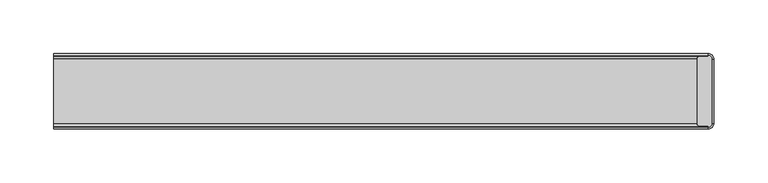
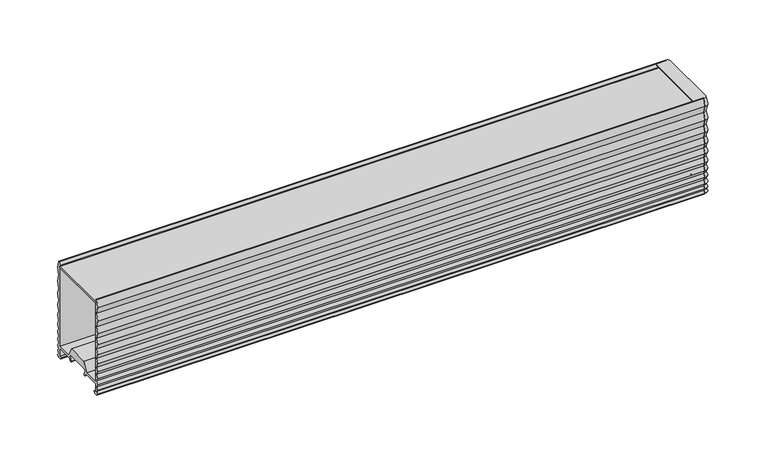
"""IFC4 building model written with IfcOpenShell, lengths in millimetres: light fixture geometry, Lighting-Ceiling-Betacalco-Bellows-Straight : BLLC-DT1-SL04-LPF020-CR80-CTA40-DD1-FA01."""

from ifc_helpers import new_model, si_unit, point, frame, frame_2d, origin, place, context, project, spatial, polyline, circle_curve, trimmed, segment, composite_curve, outline, extrude, source, transform, mapped, element, save
from ifc_brep_helpers import plane_surface, revolved_surface, advanced_brep


def light_fixture_e4687d5b(model_context):
    return source(origin(), model_context, "Body", "SolidModel", [
        advanced_brep(
        [(304.8, 35.1474913, 2.032), (304.8, 33.3694913, 0.0), (304.8, -33.3694913, 0.0), (304.8, -35.1474913, 2.032), (304.8, -33.3694913, 4.064), (304.8, -35.1474913, 6.604), (304.8, -33.3694913, 9.144), (304.8, -35.1474913, 12.192), (304.8, -33.3694913, 15.24), (304.8, -35.1474913, 18.796), (304.8, -33.3694913, 22.352), (304.8, -35.1474913, 26.162), (304.8, -33.3694913, 29.972), (304.8, -35.11885, 34.4703509), (304.8, -33.3966915, 39.0460566), (304.8, -35.1239968, 44.1288728), (304.8, -33.3919128, 49.2119386), (304.8, -35.1278878, 54.802389), (304.8, -33.3882749, 60.3929656), (304.8, -35.1308966, 66.491104), (304.8, -33.3848944, 72.5911894), (304.8, -35.1351705, 79.7067168), (304.8, -33.3815995, 86.8195673), (304.8, -35.1359826, 94.186321), (304.8, -33.3694913, 101.6), (304.8, -32.6229178, 101.6), (304.8, -32.6229178, 100.2332722), (304.8, 32.6229178, 100.2332722), (304.8, 32.6229178, 101.6), (304.8, 33.3694913, 101.6), (304.8, 35.1359826, 94.186321), (304.8, 33.3815995, 86.8195673), (304.8, 35.1351705, 79.7067168), (304.8, 33.3848944, 72.5911894), (304.8, 35.1308966, 66.491104), (304.8, 33.3882749, 60.3929656), (304.8, 35.1278878, 54.802389), (304.8, 33.3919128, 49.2119386), (304.8, 35.1239968, 44.1288728), (304.8, 33.3966915, 39.0460566), (304.8, 35.11885, 34.4703509), (304.8, 33.3694913, 29.972), (304.8, 35.1474913, 26.162), (304.8, 33.3694913, 22.352), (304.8, 35.1474913, 18.796), (304.8, 33.3694913, 15.24), (304.8, 35.1474913, 12.192), (304.8, 33.3694913, 9.144), (304.8, 35.1474913, 6.604), (304.8, 33.3694913, 4.064), (309.991, 29.9564913, 2.032), (308.213, 29.9564913, 0.0), (308.213, -29.9564913, 0.0), (308.213, 29.9564913, 101.6), (295.9807007, 32.5154703, 101.6), (294.8222216, 31.4000598, 101.6), (294.8222216, -31.4000598, 101.6), (295.9807007, -32.5154703, 101.6), (308.213, -29.9564913, 101.6), (309.9794913, 29.9564913, 94.186321), (308.2251082, 29.9564913, 86.8195673), (309.9786792, 29.9564913, 79.7067168), (308.2284031, 29.9564913, 72.5911894), (309.9744054, 29.9564913, 66.491104), (308.2317837, 29.9564913, 60.3929656), (309.9713965, 29.9564913, 54.802389), (308.2354215, 29.9564913, 49.2119386), (309.9675055, 29.9564913, 44.1288728), (308.2402002, 29.9564913, 39.0460566), (309.9623587, 29.9564913, 34.4703509), (308.213, 29.9564913, 29.972), (309.991, 29.9564913, 26.162), (308.213, 29.9564913, 22.352), (309.991, 29.9564913, 18.796), (308.213, 29.9564913, 15.24), (309.991, 29.9564913, 12.192), (308.213, 29.9564913, 9.144), (309.991, 29.9564913, 6.604), (308.213, 29.9564913, 4.064), (309.991, -29.9564913, 2.032), (309.9794913, -29.9564913, 94.186321), (308.2251082, -29.9564913, 86.8195673), (309.9786792, -29.9564913, 79.7067168), (308.2284031, -29.9564913, 72.5911894), (309.9744054, -29.9564913, 66.491104), (308.2317837, -29.9564913, 60.3929656), (309.9713965, -29.9564913, 54.802389), (308.2354215, -29.9564913, 49.2119386), (309.9675055, -29.9564913, 44.1288728), (308.2402002, -29.9564913, 39.0460566), (309.9623587, -29.9564913, 34.4703509), (308.213, -29.9564913, 29.972), (309.991, -29.9564913, 26.162), (308.213, -29.9564913, 22.352), (309.991, -29.9564913, 18.796), (308.213, -29.9564913, 15.24), (309.991, -29.9564913, 12.192), (308.213, -29.9564913, 9.144), (309.991, -29.9564913, 6.604), (308.213, -29.9564913, 4.064), (294.8222216, -31.4000598, 100.2332722), (294.8222216, 31.4000598, 100.2332722), (295.9807007, 32.5154703, 100.2332722), (295.9807007, -32.5154703, 100.2332722)],
        [
            (0, 1),
            (1, 2),
            (2, 3),
            (3, 4),
            (4, 5),
            (5, 6),
            (6, 7),
            (7, 8),
            (8, 9),
            (9, 10),
            (10, 11),
            (11, 12),
            (12, 13),
            (13, 14),
            (14, 15),
            (15, 16),
            (16, 17),
            (17, 18),
            (18, 19),
            (19, 20),
            (20, 21),
            (21, 22),
            (22, 23),
            (23, 24),
            (24, 25),
            (25, 26),
            (26, 27),
            (27, 28),
            (28, 29),
            (29, 30),
            (30, 31),
            (31, 32),
            (32, 33),
            (33, 34),
            (34, 35),
            (35, 36),
            (36, 37),
            (37, 38),
            (38, 39),
            (39, 40),
            (40, 41),
            (41, 42),
            (42, 43),
            (43, 44),
            (44, 45),
            (45, 46),
            (46, 47),
            (47, 48),
            (48, 49),
            (49, 0),
            (0, 50, circle_curve(frame((304.8, 29.9564913, 2.032), z_axis=(0.0, 0.0, -1.0), x_axis=(0.0, 1.0, 0.0)), 5.191)),
            (50, 51),
            (51, 1, circle_curve(frame((304.8, 29.9564913, 0.0), z_axis=(0.0, 0.0, 1.0), x_axis=(0.0, 1.0, 0.0)), 3.413)),
            (51, 52),
            (52, 2, circle_curve(frame((304.8, -29.9564913, 0.0), z_axis=(0.0, 0.0, -1.0), x_axis=(1.0, 0.0, 0.0)), 3.413)),
            (53, 29, circle_curve(frame((304.8, 29.9564913, 101.6), z_axis=(0.0, 0.0, 1.0), x_axis=(0.0, 1.0, 0.0)), 3.413)),
            (28, 54),
            (54, 55),
            (55, 56),
            (56, 57),
            (57, 25),
            (24, 58, circle_curve(frame((304.8, -29.9564913, 101.6), z_axis=(0.0, 0.0, 1.0), x_axis=(1.0, 0.0, 0.0)), 3.413)),
            (58, 53),
            (53, 59),
            (59, 30, circle_curve(frame((304.8, 29.9564913, 94.186321), z_axis=(0.0, 0.0, 1.0), x_axis=(0.0, 1.0, 0.0)), 5.1794913)),
            (59, 60),
            (60, 31, circle_curve(frame((304.8, 29.9564913, 86.8195673), z_axis=(0.0, 0.0, 1.0), x_axis=(0.0, 1.0, 0.0)), 3.4251082)),
            (60, 61),
            (61, 32, circle_curve(frame((304.8, 29.9564913, 79.7067168), z_axis=(0.0, 0.0, 1.0), x_axis=(0.0, 1.0, 0.0)), 5.1786792)),
            (61, 62),
            (62, 33, circle_curve(frame((304.8, 29.9564913, 72.5911894), z_axis=(0.0, 0.0, 1.0), x_axis=(0.0, 1.0, 0.0)), 3.4284031)),
            (62, 63),
            (63, 34, circle_curve(frame((304.8, 29.9564913, 66.491104), z_axis=(0.0, 0.0, 1.0), x_axis=(0.0, 1.0, 0.0)), 5.1744054)),
            (63, 64),
            (64, 35, circle_curve(frame((304.8, 29.9564913, 60.3929656), z_axis=(0.0, 0.0, 1.0), x_axis=(0.0, 1.0, 0.0)), 3.4317837)),
            (64, 65),
            (65, 36, circle_curve(frame((304.8, 29.9564913, 54.802389), z_axis=(0.0, 0.0, 1.0), x_axis=(0.0, 1.0, 0.0)), 5.1713965)),
            (65, 66),
            (66, 37, circle_curve(frame((304.8, 29.9564913, 49.2119386), z_axis=(0.0, 0.0, 1.0), x_axis=(0.0, 1.0, 0.0)), 3.4354215)),
            (66, 67),
            (67, 38, circle_curve(frame((304.8, 29.9564913, 44.1288728), z_axis=(0.0, 0.0, 1.0), x_axis=(0.0, 1.0, 0.0)), 5.1675055)),
            (67, 68),
            (68, 39, circle_curve(frame((304.8, 29.9564913, 39.0460566), z_axis=(0.0, 0.0, 1.0), x_axis=(0.0, 1.0, 0.0)), 3.4402002)),
            (68, 69),
            (69, 40, circle_curve(frame((304.8, 29.9564913, 34.4703509), z_axis=(0.0, 0.0, 1.0), x_axis=(0.0, 1.0, 0.0)), 5.1623587)),
            (69, 70),
            (70, 41, circle_curve(frame((304.8, 29.9564913, 29.972), z_axis=(0.0, 0.0, 1.0), x_axis=(0.0, 1.0, 0.0)), 3.413)),
            (70, 71),
            (71, 42, circle_curve(frame((304.8, 29.9564913, 26.162), z_axis=(0.0, 0.0, 1.0), x_axis=(0.0, 1.0, 0.0)), 5.191)),
            (71, 72),
            (72, 43, circle_curve(frame((304.8, 29.9564913, 22.352), z_axis=(0.0, 0.0, 1.0), x_axis=(0.0, 1.0, 0.0)), 3.413)),
            (72, 73),
            (73, 44, circle_curve(frame((304.8, 29.9564913, 18.796), z_axis=(0.0, 0.0, 1.0), x_axis=(0.0, 1.0, 0.0)), 5.191)),
            (73, 74),
            (74, 45, circle_curve(frame((304.8, 29.9564913, 15.24), z_axis=(0.0, 0.0, 1.0), x_axis=(0.0, 1.0, 0.0)), 3.413)),
            (74, 75),
            (75, 46, circle_curve(frame((304.8, 29.9564913, 12.192), z_axis=(0.0, 0.0, 1.0), x_axis=(0.0, 1.0, 0.0)), 5.191)),
            (75, 76),
            (76, 47, circle_curve(frame((304.8, 29.9564913, 9.144), z_axis=(0.0, 0.0, 1.0), x_axis=(0.0, 1.0, 0.0)), 3.413)),
            (76, 77),
            (77, 48, circle_curve(frame((304.8, 29.9564913, 6.604), z_axis=(0.0, 0.0, 1.0), x_axis=(0.0, 1.0, 0.0)), 5.191)),
            (77, 78),
            (78, 49, circle_curve(frame((304.8, 29.9564913, 4.064), z_axis=(0.0, 0.0, 1.0), x_axis=(0.0, 1.0, 0.0)), 3.413)),
            (78, 50),
            (50, 79),
            (79, 52),
            (58, 80),
            (80, 59),
            (80, 81),
            (81, 60),
            (81, 82),
            (82, 61),
            (82, 83),
            (83, 62),
            (83, 84),
            (84, 63),
            (84, 85),
            (85, 64),
            (85, 86),
            (86, 65),
            (86, 87),
            (87, 66),
            (87, 88),
            (88, 67),
            (88, 89),
            (89, 68),
            (89, 90),
            (90, 69),
            (90, 91),
            (91, 70),
            (91, 92),
            (92, 71),
            (92, 93),
            (93, 72),
            (93, 94),
            (94, 73),
            (94, 95),
            (95, 74),
            (95, 96),
            (96, 75),
            (96, 97),
            (97, 76),
            (97, 98),
            (98, 77),
            (98, 99),
            (99, 78),
            (99, 79),
            (100, 101),
            (101, 102),
            (102, 27),
            (26, 103),
            (103, 100),
            (56, 100),
            (103, 57),
            (102, 54),
            (101, 55),
            (79, 3, circle_curve(frame((304.8, -29.9564913, 2.032), z_axis=(0.0, 0.0, -1.0), x_axis=(1.0, 0.0, 0.0)), 5.191)),
            (23, 80, circle_curve(frame((304.8, -29.9564913, 94.186321), z_axis=(0.0, 0.0, 1.0), x_axis=(1.0, 0.0, 0.0)), 5.1794913)),
            (22, 81, circle_curve(frame((304.8, -29.9564913, 86.8195673), z_axis=(0.0, 0.0, 1.0), x_axis=(1.0, 0.0, 0.0)), 3.4251082)),
            (21, 82, circle_curve(frame((304.8, -29.9564913, 79.7067168), z_axis=(0.0, 0.0, 1.0), x_axis=(1.0, 0.0, 0.0)), 5.1786792)),
            (20, 83, circle_curve(frame((304.8, -29.9564913, 72.5911894), z_axis=(0.0, 0.0, 1.0), x_axis=(1.0, 0.0, 0.0)), 3.4284031)),
            (19, 84, circle_curve(frame((304.8, -29.9564913, 66.491104), z_axis=(0.0, 0.0, 1.0), x_axis=(1.0, 0.0, 0.0)), 5.1744054)),
            (18, 85, circle_curve(frame((304.8, -29.9564913, 60.3929656), z_axis=(0.0, 0.0, 1.0), x_axis=(1.0, 0.0, 0.0)), 3.4317837)),
            (17, 86, circle_curve(frame((304.8, -29.9564913, 54.802389), z_axis=(0.0, 0.0, 1.0), x_axis=(1.0, 0.0, 0.0)), 5.1713965)),
            (16, 87, circle_curve(frame((304.8, -29.9564913, 49.2119386), z_axis=(0.0, 0.0, 1.0), x_axis=(1.0, 0.0, 0.0)), 3.4354215)),
            (15, 88, circle_curve(frame((304.8, -29.9564913, 44.1288728), z_axis=(0.0, 0.0, 1.0), x_axis=(1.0, 0.0, 0.0)), 5.1675055)),
            (14, 89, circle_curve(frame((304.8, -29.9564913, 39.0460566), z_axis=(0.0, 0.0, 1.0), x_axis=(1.0, 0.0, 0.0)), 3.4402002)),
            (13, 90, circle_curve(frame((304.8, -29.9564913, 34.4703509), z_axis=(0.0, 0.0, 1.0), x_axis=(1.0, 0.0, 0.0)), 5.1623587)),
            (12, 91, circle_curve(frame((304.8, -29.9564913, 29.972), z_axis=(0.0, 0.0, 1.0), x_axis=(1.0, 0.0, 0.0)), 3.413)),
            (11, 92, circle_curve(frame((304.8, -29.9564913, 26.162), z_axis=(0.0, 0.0, 1.0), x_axis=(1.0, 0.0, 0.0)), 5.191)),
            (10, 93, circle_curve(frame((304.8, -29.9564913, 22.352), z_axis=(0.0, 0.0, 1.0), x_axis=(1.0, 0.0, 0.0)), 3.413)),
            (9, 94, circle_curve(frame((304.8, -29.9564913, 18.796), z_axis=(0.0, 0.0, 1.0), x_axis=(1.0, 0.0, 0.0)), 5.191)),
            (8, 95, circle_curve(frame((304.8, -29.9564913, 15.24), z_axis=(0.0, 0.0, 1.0), x_axis=(1.0, 0.0, 0.0)), 3.413)),
            (7, 96, circle_curve(frame((304.8, -29.9564913, 12.192), z_axis=(0.0, 0.0, 1.0), x_axis=(1.0, 0.0, 0.0)), 5.191)),
            (6, 97, circle_curve(frame((304.8, -29.9564913, 9.144), z_axis=(0.0, 0.0, 1.0), x_axis=(1.0, 0.0, 0.0)), 3.413)),
            (5, 98, circle_curve(frame((304.8, -29.9564913, 6.604), z_axis=(0.0, 0.0, 1.0), x_axis=(1.0, 0.0, 0.0)), 5.191)),
            (4, 99, circle_curve(frame((304.8, -29.9564913, 4.064), z_axis=(0.0, 0.0, 1.0), x_axis=(1.0, 0.0, 0.0)), 3.413)),
        ],
        [
            plane_surface(frame((304.8, 35.3935941, 0.0), z_axis=(-1.0, 0.0, 0.0), x_axis=(0.0, 0.0, 1.0))),
            revolved_surface(polyline([(304.8, 35.1474913, 2.032), (304.8, 33.3694913, 0.0)]), (304.8, 29.9564913, 0.0), (0.0, 0.0, -1.0)),
            plane_surface(frame((304.8, 29.9564913, 0.0), z_axis=(0.0, 0.0, -1.0), x_axis=(0.0, 1.0, 0.0))),
            plane_surface(frame((304.8, 29.9564913, 101.6), z_axis=(0.0, 0.0, 1.0), x_axis=(0.0, 1.0, 0.0))),
            revolved_surface(polyline([(304.8, 33.3694913, 101.6), (304.8, 35.1359826, 94.186321)]), (304.8, 29.9564913, 0.0), (0.0, 0.0, -1.0)),
            revolved_surface(polyline([(304.8, 35.1359826, 94.186321), (304.8, 33.3815995, 86.8195673)]), (304.8, 29.9564913, 0.0), (0.0, 0.0, -1.0)),
            revolved_surface(polyline([(304.8, 33.3815995, 86.8195673), (304.8, 35.1351705, 79.7067168)]), (304.8, 29.9564913, 0.0), (0.0, 0.0, -1.0)),
            revolved_surface(polyline([(304.8, 35.1351705, 79.7067168), (304.8, 33.3848944, 72.5911894)]), (304.8, 29.9564913, 0.0), (0.0, 0.0, -1.0)),
            revolved_surface(polyline([(304.8, 33.3848944, 72.5911894), (304.8, 35.1308966, 66.491104)]), (304.8, 29.9564913, 0.0), (0.0, 0.0, -1.0)),
            revolved_surface(polyline([(304.8, 35.1308966, 66.491104), (304.8, 33.3882749, 60.3929656)]), (304.8, 29.9564913, 0.0), (0.0, 0.0, -1.0)),
            revolved_surface(polyline([(304.8, 33.3882749, 60.3929656), (304.8, 35.1278878, 54.802389)]), (304.8, 29.9564913, 0.0), (0.0, 0.0, -1.0)),
            revolved_surface(polyline([(304.8, 35.1278878, 54.802389), (304.8, 33.3919128, 49.2119386)]), (304.8, 29.9564913, 0.0), (0.0, 0.0, -1.0)),
            revolved_surface(polyline([(304.8, 33.3919128, 49.2119386), (304.8, 35.1239968, 44.1288728)]), (304.8, 29.9564913, 0.0), (0.0, 0.0, -1.0)),
            revolved_surface(polyline([(304.8, 35.1239968, 44.1288728), (304.8, 33.3966915, 39.0460566)]), (304.8, 29.9564913, 0.0), (0.0, 0.0, -1.0)),
            revolved_surface(polyline([(304.8, 33.3966915, 39.0460566), (304.8, 35.11885, 34.4703509)]), (304.8, 29.9564913, 0.0), (0.0, 0.0, -1.0)),
            revolved_surface(polyline([(304.8, 35.11885, 34.4703509), (304.8, 33.3694913, 29.972)]), (304.8, 29.9564913, 0.0), (0.0, 0.0, -1.0)),
            revolved_surface(polyline([(304.8, 33.3694913, 29.972), (304.8, 35.1474913, 26.162)]), (304.8, 29.9564913, 0.0), (0.0, 0.0, -1.0)),
            revolved_surface(polyline([(304.8, 35.1474913, 26.162), (304.8, 33.3694913, 22.352)]), (304.8, 29.9564913, 0.0), (0.0, 0.0, -1.0)),
            revolved_surface(polyline([(304.8, 33.3694913, 22.352), (304.8, 35.1474913, 18.796)]), (304.8, 29.9564913, 0.0), (0.0, 0.0, -1.0)),
            revolved_surface(polyline([(304.8, 35.1474913, 18.796), (304.8, 33.3694913, 15.24)]), (304.8, 29.9564913, 0.0), (0.0, 0.0, -1.0)),
            revolved_surface(polyline([(304.8, 33.3694913, 15.24), (304.8, 35.1474913, 12.192)]), (304.8, 29.9564913, 0.0), (0.0, 0.0, -1.0)),
            revolved_surface(polyline([(304.8, 35.1474913, 12.192), (304.8, 33.3694913, 9.144)]), (304.8, 29.9564913, 0.0), (0.0, 0.0, -1.0)),
            revolved_surface(polyline([(304.8, 33.3694913, 9.144), (304.8, 35.1474913, 6.604)]), (304.8, 29.9564913, 0.0), (0.0, 0.0, -1.0)),
            revolved_surface(polyline([(304.8, 35.1474913, 6.604), (304.8, 33.3694913, 4.064)]), (304.8, 29.9564913, 0.0), (0.0, 0.0, -1.0)),
            revolved_surface(polyline([(304.8, 33.3694913, 4.064), (304.8, 35.1474913, 2.032)]), (304.8, 29.9564913, 0.0), (0.0, 0.0, -1.0)),
            plane_surface(frame((309.991, 29.9564913, 2.032), z_axis=(0.7525766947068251, 0.0, -0.6585046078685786), x_axis=(0.0, -1.0, 0.0))),
            plane_surface(frame((308.213, 29.9564913, 101.6), z_axis=(0.9727668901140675, 0.0, 0.23178562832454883), x_axis=(0.0, -1.0, 0.0))),
            plane_surface(frame((309.9794913, 29.9564913, 94.186321), z_axis=(0.9727944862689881, 0.0, -0.23166978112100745), x_axis=(0.0, -1.0, 0.0))),
            plane_surface(frame((308.2251082, 29.9564913, 86.8195673), z_axis=(0.9709287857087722, 0.0, 0.23936852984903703), x_axis=(0.0, -1.0, 0.0))),
            plane_surface(frame((309.9786792, 29.9564913, 79.7067168), z_axis=(0.9710540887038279, 0.0, -0.23885970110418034), x_axis=(0.0, -1.0, 0.0))),
            plane_surface(frame((308.2284031, 29.9564913, 72.5911894), z_axis=(0.9613939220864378, 0.0, 0.27517581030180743), x_axis=(0.0, -1.0, 0.0))),
            plane_surface(frame((309.9744054, 29.9564913, 66.491104), z_axis=(0.9615116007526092, 0.0, -0.2747643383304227), x_axis=(0.0, -1.0, 0.0))),
            plane_surface(frame((308.2317837, 29.9564913, 60.3929656), z_axis=(0.9548411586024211, 0.0, 0.29711674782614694), x_axis=(0.0, -1.0, 0.0))),
            plane_surface(frame((309.9713965, 29.9564913, 54.802389), z_axis=(0.9550153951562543, 0.0, -0.29655622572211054), x_axis=(0.0, -1.0, 0.0))),
            plane_surface(frame((308.2354215, 29.9564913, 49.2119386), z_axis=(0.9465545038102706, 0.0, 0.3225439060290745), x_axis=(0.0, -1.0, 0.0))),
            plane_surface(frame((309.9675055, 29.9564913, 44.1288728), z_axis=(0.9468211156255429, 0.0, -0.3217604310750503), x_axis=(0.0, -1.0, 0.0))),
            plane_surface(frame((308.2402002, 29.9564913, 39.0460566), z_axis=(0.9359069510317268, 0.0, 0.3522473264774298), x_axis=(0.0, -1.0, 0.0))),
            plane_surface(frame((309.9623587, 29.9564913, 34.4703509), z_axis=(0.9320046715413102, 0.0, -0.36244626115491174), x_axis=(0.0, -1.0, 0.0))),
            plane_surface(frame((308.213, 29.9564913, 29.972), z_axis=(0.9061831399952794, 0.0, 0.42288546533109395), x_axis=(0.0, -1.0, 0.0))),
            plane_surface(frame((309.991, 29.9564913, 26.162), z_axis=(0.9061831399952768, 0.0, -0.42288546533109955), x_axis=(0.0, -1.0, 0.0))),
            plane_surface(frame((308.213, 29.9564913, 22.352), z_axis=(0.8944271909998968, 0.0, 0.4472135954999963), x_axis=(0.0, -1.0, 0.0))),
            plane_surface(frame((309.991, 29.9564913, 18.796), z_axis=(0.8944271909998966, 0.0, -0.44721359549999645), x_axis=(0.0, -1.0, 0.0))),
            plane_surface(frame((308.213, 29.9564913, 15.24), z_axis=(0.8637789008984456, 0.0, 0.5038710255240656), x_axis=(0.0, -1.0, 0.0))),
            plane_surface(frame((309.991, 29.9564913, 12.192), z_axis=(0.8637789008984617, 0.0, -0.503871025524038), x_axis=(0.0, -1.0, 0.0))),
            plane_surface(frame((308.213, 29.9564913, 9.144), z_axis=(0.8192319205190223, 0.0, 0.5734623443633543), x_axis=(0.0, -1.0, 0.0))),
            plane_surface(frame((309.991, 29.9564913, 6.604), z_axis=(0.8192319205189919, 0.0, -0.5734623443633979), x_axis=(0.0, -1.0, 0.0))),
            plane_surface(frame((308.213, 29.9564913, 4.064), z_axis=(0.7525766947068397, 0.0, 0.6585046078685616), x_axis=(0.0, -1.0, 0.0))),
            plane_surface(frame((294.8222216, -31.4000598, 100.2332722), z_axis=(0.0, 0.0, -1.0), x_axis=(-0.7203705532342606, 0.6935894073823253, 0.0))),
            plane_surface(frame((294.8222216, -31.4000598, 101.6), z_axis=(-0.6935894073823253, -0.7203705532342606, 0.0), x_axis=(0.0, 0.0, -1.0))),
            plane_surface(frame((295.9807007, -32.5154703, 101.6), z_axis=(-0.012182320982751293, -0.9999257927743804, 0.0), x_axis=(0.0, 0.0, -1.0))),
            plane_surface(frame((304.8, 32.6229178, 101.6), z_axis=(-0.012182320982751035, 0.9999257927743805, 0.0), x_axis=(0.0, 0.0, -1.0))),
            plane_surface(frame((295.9807007, 32.5154703, 101.6), z_axis=(-0.6935894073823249, 0.7203705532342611, 0.0), x_axis=(0.0, 0.0, -1.0))),
            plane_surface(frame((294.8222216, 31.4000598, 101.6), z_axis=(-1.0, 0.0, 0.0), x_axis=(0.0, 0.0, -1.0))),
            revolved_surface(polyline([(309.991, -29.9564913, 2.032), (308.213, -29.9564913, 0.0)]), (304.8, -29.9564913, 0.0), (0.0, 0.0, -1.0)),
            revolved_surface(polyline([(308.213, -29.9564913, 101.6), (309.9794913, -29.9564913, 94.186321)]), (304.8, -29.9564913, 0.0), (0.0, 0.0, -1.0)),
            revolved_surface(polyline([(309.9794913, -29.9564913, 94.186321), (308.2251082, -29.9564913, 86.8195673)]), (304.8, -29.9564913, 0.0), (0.0, 0.0, -1.0)),
            revolved_surface(polyline([(308.2251082, -29.9564913, 86.8195673), (309.9786792, -29.9564913, 79.7067168)]), (304.8, -29.9564913, 0.0), (0.0, 0.0, -1.0)),
            revolved_surface(polyline([(309.9786792, -29.9564913, 79.7067168), (308.2284031, -29.9564913, 72.5911894)]), (304.8, -29.9564913, 0.0), (0.0, 0.0, -1.0)),
            revolved_surface(polyline([(308.2284031, -29.9564913, 72.5911894), (309.9744054, -29.9564913, 66.491104)]), (304.8, -29.9564913, 0.0), (0.0, 0.0, -1.0)),
            revolved_surface(polyline([(309.9744054, -29.9564913, 66.491104), (308.2317837, -29.9564913, 60.3929656)]), (304.8, -29.9564913, 0.0), (0.0, 0.0, -1.0)),
            revolved_surface(polyline([(308.2317837, -29.9564913, 60.3929656), (309.9713965, -29.9564913, 54.802389)]), (304.8, -29.9564913, 0.0), (0.0, 0.0, -1.0)),
            revolved_surface(polyline([(309.9713965, -29.9564913, 54.802389), (308.2354215, -29.9564913, 49.2119386)]), (304.8, -29.9564913, 0.0), (0.0, 0.0, -1.0)),
            revolved_surface(polyline([(308.2354215, -29.9564913, 49.2119386), (309.9675055, -29.9564913, 44.1288728)]), (304.8, -29.9564913, 0.0), (0.0, 0.0, -1.0)),
            revolved_surface(polyline([(309.9675055, -29.9564913, 44.1288728), (308.2402002, -29.9564913, 39.0460566)]), (304.8, -29.9564913, 0.0), (0.0, 0.0, -1.0)),
            revolved_surface(polyline([(308.2402002, -29.9564913, 39.0460566), (309.9623587, -29.9564913, 34.4703509)]), (304.8, -29.9564913, 0.0), (0.0, 0.0, -1.0)),
            revolved_surface(polyline([(309.9623587, -29.9564913, 34.4703509), (308.213, -29.9564913, 29.972)]), (304.8, -29.9564913, 0.0), (0.0, 0.0, -1.0)),
            revolved_surface(polyline([(308.213, -29.9564913, 29.972), (309.991, -29.9564913, 26.162)]), (304.8, -29.9564913, 0.0), (0.0, 0.0, -1.0)),
            revolved_surface(polyline([(309.991, -29.9564913, 26.162), (308.213, -29.9564913, 22.352)]), (304.8, -29.9564913, 0.0), (0.0, 0.0, -1.0)),
            revolved_surface(polyline([(308.213, -29.9564913, 22.352), (309.991, -29.9564913, 18.796)]), (304.8, -29.9564913, 0.0), (0.0, 0.0, -1.0)),
            revolved_surface(polyline([(309.991, -29.9564913, 18.796), (308.213, -29.9564913, 15.24)]), (304.8, -29.9564913, 0.0), (0.0, 0.0, -1.0)),
            revolved_surface(polyline([(308.213, -29.9564913, 15.24), (309.991, -29.9564913, 12.192)]), (304.8, -29.9564913, 0.0), (0.0, 0.0, -1.0)),
            revolved_surface(polyline([(309.991, -29.9564913, 12.192), (308.213, -29.9564913, 9.144)]), (304.8, -29.9564913, 0.0), (0.0, 0.0, -1.0)),
            revolved_surface(polyline([(308.213, -29.9564913, 9.144), (309.991, -29.9564913, 6.604)]), (304.8, -29.9564913, 0.0), (0.0, 0.0, -1.0)),
            revolved_surface(polyline([(309.991, -29.9564913, 6.604), (308.213, -29.9564913, 4.064)]), (304.8, -29.9564913, 0.0), (0.0, 0.0, -1.0)),
            revolved_surface(polyline([(308.213, -29.9564913, 4.064), (309.991, -29.9564913, 2.032)]), (304.8, -29.9564913, 0.0), (0.0, 0.0, -1.0)),
        ],
        [
            (0, [[1, 2, 3, 4, 5, 6, 7, 8, 9, 10, 11, 12, 13, 14, 15, 16, 17, 18, 19, 20, 21, 22, 23, 24, 25, 26, 27, 28, 29, 30, 31, 32, 33, 34, 35, 36, 37, 38, 39, 40, 41, 42, 43, 44, 45, 46, 47, 48, 49, 50]]),
            (1, [[-1, 51, 52, 53]]),
            (2, [[-2, -53, 54, 55]]),
            (3, [[56, -29, 57, 58, 59, 60, 61, -25, 62, 63]]),
            (4, [[-30, -56, 64, 65]]),
            (5, [[-31, -65, 66, 67]]),
            (6, [[-32, -67, 68, 69]]),
            (7, [[-33, -69, 70, 71]]),
            (8, [[-34, -71, 72, 73]]),
            (9, [[-35, -73, 74, 75]]),
            (10, [[-36, -75, 76, 77]]),
            (11, [[-37, -77, 78, 79]]),
            (12, [[-38, -79, 80, 81]]),
            (13, [[-39, -81, 82, 83]]),
            (14, [[-40, -83, 84, 85]]),
            (15, [[-41, -85, 86, 87]]),
            (16, [[-42, -87, 88, 89]]),
            (17, [[-43, -89, 90, 91]]),
            (18, [[-44, -91, 92, 93]]),
            (19, [[-45, -93, 94, 95]]),
            (20, [[-46, -95, 96, 97]]),
            (21, [[-47, -97, 98, 99]]),
            (22, [[-48, -99, 100, 101]]),
            (23, [[-49, -101, 102, 103]]),
            (24, [[-50, -103, 104, -51]]),
            (25, [[-52, 105, 106, -54]]),
            (26, [[-63, 107, 108, -64]]),
            (27, [[-66, -108, 109, 110]]),
            (28, [[-68, -110, 111, 112]]),
            (29, [[-70, -112, 113, 114]]),
            (30, [[-72, -114, 115, 116]]),
            (31, [[-74, -116, 117, 118]]),
            (32, [[-76, -118, 119, 120]]),
            (33, [[-78, -120, 121, 122]]),
            (34, [[-80, -122, 123, 124]]),
            (35, [[-82, -124, 125, 126]]),
            (36, [[-84, -126, 127, 128]]),
            (37, [[-86, -128, 129, 130]]),
            (38, [[-88, -130, 131, 132]]),
            (39, [[-90, -132, 133, 134]]),
            (40, [[-92, -134, 135, 136]]),
            (41, [[-94, -136, 137, 138]]),
            (42, [[-96, -138, 139, 140]]),
            (43, [[-98, -140, 141, 142]]),
            (44, [[-100, -142, 143, 144]]),
            (45, [[-102, -144, 145, 146]]),
            (46, [[-104, -146, 147, -105]]),
            (47, [[148, 149, 150, -27, 151, 152]]),
            (48, [[-60, 153, -152, 154]]),
            (49, [[-61, -154, -151, -26]]),
            (50, [[-57, -28, -150, 155]]),
            (51, [[-58, -155, -149, 156]]),
            (52, [[-59, -156, -148, -153]]),
            (53, [[-55, -106, 157, -3]]),
            (54, [[-62, -24, 158, -107]]),
            (55, [[-109, -158, -23, 159]]),
            (56, [[-111, -159, -22, 160]]),
            (57, [[-113, -160, -21, 161]]),
            (58, [[-115, -161, -20, 162]]),
            (59, [[-117, -162, -19, 163]]),
            (60, [[-119, -163, -18, 164]]),
            (61, [[-121, -164, -17, 165]]),
            (62, [[-123, -165, -16, 166]]),
            (63, [[-125, -166, -15, 167]]),
            (64, [[-127, -167, -14, 168]]),
            (65, [[-129, -168, -13, 169]]),
            (66, [[-131, -169, -12, 170]]),
            (67, [[-133, -170, -11, 171]]),
            (68, [[-135, -171, -10, 172]]),
            (69, [[-137, -172, -9, 173]]),
            (70, [[-139, -173, -8, 174]]),
            (71, [[-141, -174, -7, 175]]),
            (72, [[-143, -175, -6, 176]]),
            (73, [[-145, -176, -5, 177]]),
            (74, [[-147, -177, -4, -157]]),
        ],
    ),
        extrude(outline(polyline([(304.8, 31.222), (304.8, -31.222), (-304.8, -31.222), (-304.8, 31.222), (304.8, 31.222)])), frame((0.0, 0.0, 96.3991196), z_axis=(0.0, 0.0, 1.0), x_axis=(1.0, 0.0, 0.0)), (0.0, 0.0, 1.0), 1.397),
        extrude(outline(composite_curve([segment(polyline([(-31.222, 10.668), (-31.222, 2.159), (-28.6925845, 2.159)]), True, "CONTINUOUS"), segment(trimmed(circle_curve(frame_2d((-30.6378, 1.9558)), 1.9558), [point((-28.6925845, 2.159))], [point((-30.6378, 0.0))], False, "CARTESIAN"), True, "CONTINUOUS"), segment(polyline([(-30.6378, 0.0), (-33.2887943, 0.0), (-35.1621621, 2.0283861), (-33.381, 4.064), (-35.159, 6.604), (-33.381, 9.144), (-35.159, 12.192), (-33.381, 15.24), (-35.159, 18.796), (-33.381, 22.352), (-35.159, 26.162), (-33.381, 29.972), (-35.1303587, 34.4703509), (-33.4082002, 39.0460566), (-35.1355055, 44.1288728), (-33.4034215, 49.2119386), (-35.1393965, 54.802389), (-33.3997837, 60.3929656), (-35.1424053, 66.491104), (-33.3964031, 72.5911894), (-35.1466792, 79.7067168), (-33.3931082, 86.8195673), (-35.1474913, 94.186321), (-33.3814932, 101.6), (-32.5877432, 101.6), (-30.42825, 99.2470342), (-30.42825, 97.7961196), (-31.222, 97.7961196), (-31.222, 12.827), (-15.4806146, 12.827), (-10.6222255, 22.5473325), (10.6222255, 22.5473325), (15.4806146, 12.827), (31.222, 12.827), (31.222, 97.7961196), (30.42825, 97.7961196), (30.42825, 99.2470342), (32.5877432, 101.6), (33.3814932, 101.6), (35.1474913, 94.186321), (33.3931082, 86.8195673), (35.1466792, 79.7067168), (33.3964031, 72.5911894), (35.1424053, 66.491104), (33.3997837, 60.3929656), (35.1393965, 54.802389), (33.4034215, 49.2119386), (35.1355055, 44.1288728), (33.4082002, 39.0460566), (35.1303587, 34.4703509), (33.381, 29.972), (35.159, 26.162), (33.381, 22.352), (35.159, 18.796), (33.381, 15.24), (35.159, 12.192), (33.381, 9.144), (35.159, 6.604), (33.381, 4.064), (35.1621621, 2.0283861), (33.2887943, 0.0), (30.6378, 0.0)]), True, "CONTINUOUS"), segment(trimmed(circle_curve(frame_2d((30.6378, 1.9558)), 1.9558), [point((30.6378, 0.0))], [point((28.6925845, 2.159))], False, "CARTESIAN"), True, "CONTINUOUS"), segment(polyline([(28.6925845, 2.159), (31.222, 2.159), (31.222, 10.668), (13.5129289, 10.668), (12.7429679, 8.614822)]), True, "CONTINUOUS"), segment(trimmed(circle_curve(frame_2d((11.9002723, 8.9308408)), 0.9000021), [point((12.7429679, 8.614822))], [point((11.0552644, 9.2406239))], False, "CARTESIAN"), True, "CONTINUOUS"), segment(polyline([(11.0552644, 9.2406239), (12.68601, 13.5891701), (12.0641563, 14.8333325), (-12.0641563, 14.8333325), (-12.68601, 13.5891701), (-11.0552644, 9.2406239)]), True, "CONTINUOUS"), segment(trimmed(circle_curve(frame_2d((-11.9002723, 8.9308408)), 0.9000021), [point((-11.0552644, 9.2406239))], [point((-12.7429679, 8.614822))], False, "CARTESIAN"), True, "CONTINUOUS"), segment(polyline([(-12.7429679, 8.614822), (-13.5129289, 10.668), (-31.222, 10.668)]), True, "CONTINUOUS")], self_intersect=False)), frame((-304.8, 0.0, 0.0), z_axis=(1.0, 0.0, 0.0), x_axis=(0.0, 1.0, 0.0)), (0.0, 0.0, 1.0), 609.6),
    ])


if __name__ == "__main__":
    model = new_model("IFC4")
    model_context = context("Model", 3, world=origin())
    ifc_project = project(units=[si_unit("LENGTHUNIT", "METRE", prefix="MILLI")], contexts=[model_context])
    site = spatial("IfcSite", under=ifc_project)
    building = spatial("IfcBuilding", under=site)
    placement = place(None, origin())
    light_fixture_shape = light_fixture_e4687d5b(model_context)
    element("IfcLightFixture", 1, ObjectType="Lighting-Ceiling-Betacalco-Bellows-Straight : BLLC-DT1-SL04-LPF020-CR80-CTA40-DD1-FA01", at=placement, inside=building, context=model_context, shape_type="MappedRepresentation", body=[
        mapped(light_fixture_shape, transform((0.0, 0.0, 0.0), x_axis=(1.0, 0.0, 0.0), y_axis=(0.0, 1.0, 0.0), z_axis=(0.0, 0.0, 1.0))),
    ])
    save(model, "model.ifc")
